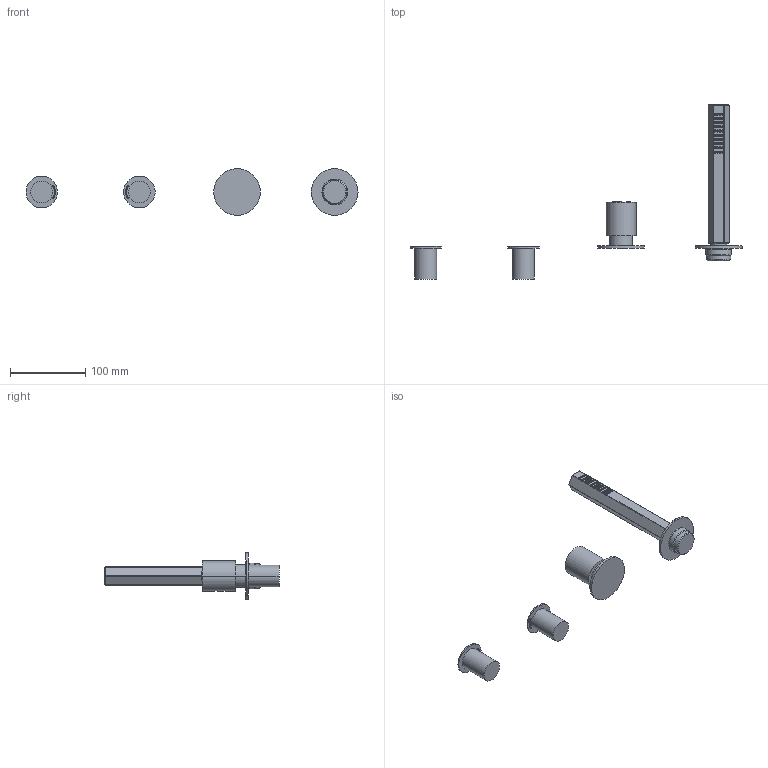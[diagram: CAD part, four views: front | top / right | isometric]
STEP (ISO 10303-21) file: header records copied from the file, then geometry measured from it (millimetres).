
FILE_DESCRIPTION((''),'2;1');
FILE_NAME('29000S767S000000_SW0001','2024-04-22T09:52:05',('cristian.dorz'),(''),'CREO PARAMETRIC BY PTC INC, 2022281','CREO PARAMETRIC BY PTC INC, 2022281','');
FILE_SCHEMA(('AUTOMOTIVE_DESIGN { 1 0 10303 214 1 1 1 1 }'));
Products named in the file (1): 29000S767S000000_SW0001
Bounding box: 441.93 x 231.79 x 62 mm (x, y, z)
Volume: 253895.7 mm3; surface area: 54588.5 mm2
Topology: 24 solids, 24 shells, 1897 faces, 5040 edges, 3353 vertices
Faces by surface type: plane 1539, cylinder 253, extrusion 80, sphere 9, cone 8, bspline 6, torus 2
Entity records: 80938 total; most frequent: CARTESIAN_POINT 18391, ORIENTED_EDGE 9996, DIRECTION 8951, PRESENTATION_STYLE_ASSIGNMENT 5057, STYLED_ITEM 5057, CURVE_STYLE 5033, EDGE_CURVE 4998, VECTOR 4450
